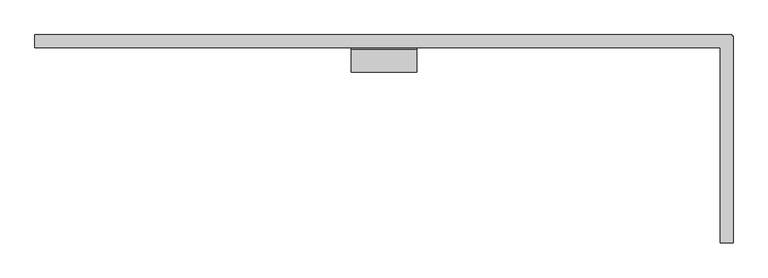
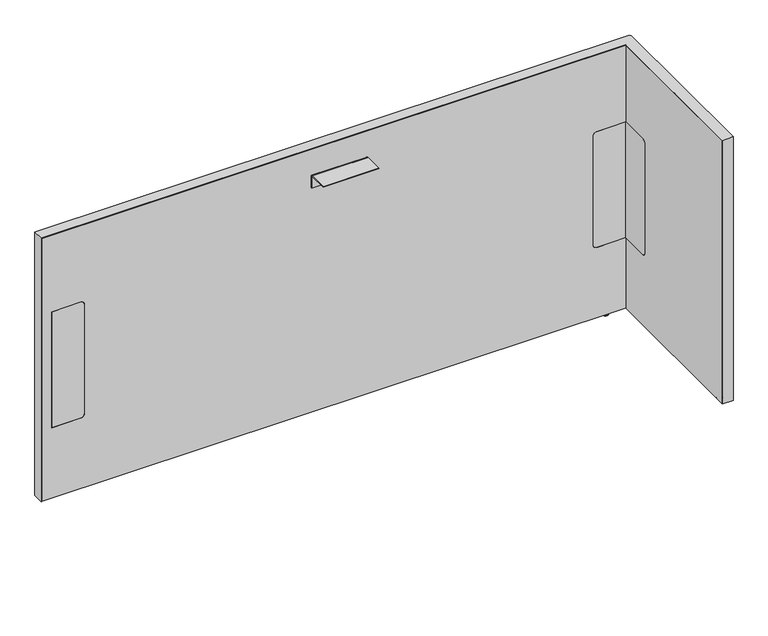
"""IFC4 building model written with IfcOpenShell, lengths in millimetres: furniture geometry, Steelcase - Answer Solution - Boundary Screen - L Return - Single Sided : 30H x 63W."""

import ifcopenshell
import ifcopenshell.guid

model = None  # the IFC model being written
_history = None  # IfcOwnerHistory: only IFC2X3 demands one
_inside = {}  # id of a spatial element -> (the spatial element, [elements in it])
_under = {}  # id of a project, library or spatial element -> (it, [spatial elements below it])
_declared = {}  # id of a project -> (the project, [libraries it declares])
_typed = {}  # id of a type object -> (the type object, [elements of that type])
_made_of = {}  # id of a material, layer set ... -> (it, [elements and type objects made of it])


def new_model(schema):
    """Start an empty IFC model of exactly this schema.

    Asked for "IFC4X3", IfcOpenShell would pick the latest addendum, in which some entities
    have other attributes; the version numbers below select the first issue.
    IFC2X3 requires an IfcOwnerHistory on every rooted entity: one is made here for all.
    """
    global model, _history
    if schema == "IFC4X3":
        model = ifcopenshell.file(schema_version=(4, 3, 0, 0))
    else:
        model = ifcopenshell.file(schema=schema)
    _inside.clear()
    _under.clear()
    _declared.clear()
    _typed.clear()
    _made_of.clear()
    _history = None
    if model.schema == "IFC2X3":
        org = make("IfcOrganization", Name="unknown")
        user = make(
            "IfcPersonAndOrganization",
            ThePerson=make("IfcPerson", FamilyName="unknown"),
            TheOrganization=org,
        )
        app = make(
            "IfcApplication",
            ApplicationDeveloper=org,
            Version="unknown",
            ApplicationFullName="unknown",
            ApplicationIdentifier="unknown",
        )
        _history = make(
            "IfcOwnerHistory",
            OwningUser=user,
            OwningApplication=app,
            ChangeAction="ADDED",
            CreationDate=0,
        )
    return model


def make(cls, **values):
    """One entity of the class cls with the attributes given. An attribute that is None is left unset."""
    return model.create_entity(
        cls, **{name: value for name, value in values.items() if value is not None}
    )


def rooted(cls, **values):
    """An entity with a GlobalId (a new one), such as an element, a storey or a relation."""
    return make(cls, GlobalId=ifcopenshell.guid.new(), OwnerHistory=_history, **values)


def si_unit(unit_type, name, prefix=None):
    """IfcSIUnit, for example si_unit("LENGTHUNIT", "METRE", prefix="MILLI")."""
    return make("IfcSIUnit", UnitType=unit_type, Prefix=prefix, Name=name)


def assignment(units):
    """IfcUnitAssignment: the units of a project."""
    return None if units is None else make("IfcUnitAssignment", Units=units)


def point(xyz):
    """IfcCartesianPoint."""
    return None if xyz is None else make("IfcCartesianPoint", Coordinates=xyz)


def direction(xyz):
    """IfcDirection."""
    return None if xyz is None else make("IfcDirection", DirectionRatios=xyz)


def frame(location, z_axis=None, x_axis=None):
    """IfcAxis2Placement3D, a coordinate frame: its origin and axes. An axis left out is left unset."""
    return make(
        "IfcAxis2Placement3D",
        Location=point(location),
        Axis=direction(z_axis),
        RefDirection=direction(x_axis),
    )


def frame_2d(location, x_axis=None):
    """IfcAxis2Placement2D, a coordinate frame in the plane: its origin and x axis."""
    return make(
        "IfcAxis2Placement2D", Location=point(location), RefDirection=direction(x_axis)
    )


def origin():
    """The frame at (0, 0, 0) with its axes left unset."""
    return frame((0.0, 0.0, 0.0))


def place(relative_to, where):
    """IfcLocalPlacement: puts the frame where relative to a parent placement (None: the world)."""
    return make(
        "IfcLocalPlacement", PlacementRelTo=relative_to, RelativePlacement=where
    )


def context(
    kind, dimensions, precision=None, world=None, true_north=None, identifier=None
):
    """IfcGeometricRepresentationContext, for example the 3D "Model" context."""
    return make(
        "IfcGeometricRepresentationContext",
        ContextIdentifier=identifier,
        ContextType=kind,
        CoordinateSpaceDimension=dimensions,
        Precision=precision,
        WorldCoordinateSystem=world,
        TrueNorth=true_north,
    )


def project(units=None, contexts=None):
    """IfcProject with its units and contexts."""
    return rooted(
        "IfcProject",
        Name="project",
        RepresentationContexts=contexts,
        UnitsInContext=assignment(units),
    )


def spatial(cls, under=None, at=None, **own):
    """A site, building, storey or space (cls), placed at a placement, below another one or the project."""
    s = rooted(cls, ObjectPlacement=at, **own)
    if under is not None:
        _under.setdefault(under.id(), (under, []))[1].append(s)
    return s


def polyline(points):
    """IfcPolyline through the points."""
    return make("IfcPolyline", Points=[point(p) for p in points])


def circle_curve(where, radius):
    """IfcCircle in the frame where."""
    return make("IfcCircle", Position=where, Radius=radius)


def ellipse_curve(where, semi_axis1, semi_axis2):
    """IfcEllipse in the frame where."""
    return make(
        "IfcEllipse", Position=where, SemiAxis1=semi_axis1, SemiAxis2=semi_axis2
    )


def trimmed(basis, trim1, trim2, sense, master):
    """IfcTrimmedCurve: the piece of a basis curve between two trims."""
    return make(
        "IfcTrimmedCurve",
        BasisCurve=basis,
        Trim1=trim1,
        Trim2=trim2,
        SenseAgreement=sense,
        MasterRepresentation=master,
    )


def segment(curve, same_sense, transition):
    """IfcCompositeCurveSegment."""
    return make(
        "IfcCompositeCurveSegment",
        Transition=transition,
        SameSense=same_sense,
        ParentCurve=curve,
    )


def composite_curve(segments, self_intersect=None):
    """IfcCompositeCurve: segments joined end to end."""
    return make("IfcCompositeCurve", Segments=segments, SelfIntersect=self_intersect)


def outline(outer, holes=None, kind="AREA"):
    """IfcArbitraryClosedProfileDef: a profile drawn as a closed curve; with holes, ...WithVoids."""
    if holes is None:
        return make("IfcArbitraryClosedProfileDef", ProfileType=kind, OuterCurve=outer)
    return make(
        "IfcArbitraryProfileDefWithVoids",
        ProfileType=kind,
        OuterCurve=outer,
        InnerCurves=holes,
    )


def extrude(swept, where, along, depth):
    """IfcExtrudedAreaSolid: the profile swept, set in the frame where, extruded along a direction by depth."""
    return make(
        "IfcExtrudedAreaSolid",
        SweptArea=swept,
        Position=where,
        ExtrudedDirection=direction(along),
        Depth=depth,
    )


def faces_of(points, faces, orient=None, outer=None):
    """IfcFace entities. A face is a list of loops; a loop is a list of indices into points, from 0.

    orient and outer hold one flag for each loop. By default every Orientation is true, the
    first loop of a face is its IfcFaceOuterBound and the others are IfcFaceBound.
    """
    made = []
    for i, loops in enumerate(faces):
        bounds = []
        for j, loop in enumerate(loops):
            is_outer = j == 0 if outer is None else outer[i][j]
            bounds.append(
                make(
                    "IfcFaceOuterBound" if is_outer else "IfcFaceBound",
                    Bound=make("IfcPolyLoop", Polygon=[points[k] for k in loop]),
                    Orientation=True if orient is None else orient[i][j],
                )
            )
        made.append(make("IfcFace", Bounds=bounds))
    return made


def faceted_brep(points, faces, orient=None, outer=None, voids=None):
    """IfcFacetedBrep: a solid bounded by flat faces; with voids (closed shells), ...WithVoids."""
    shared = [point(p) for p in points]
    hull = make("IfcClosedShell", CfsFaces=faces_of(shared, faces, orient, outer))
    if voids is None:
        return make("IfcFacetedBrep", Outer=hull)
    return make(
        "IfcFacetedBrepWithVoids",
        Outer=hull,
        Voids=[
            make(cls, CfsFaces=faces_of(shared, fs, o, b)) for cls, fs, o, b in voids
        ],
    )


def shape(context_of_items, identifier, shape_type, items):
    """IfcShapeRepresentation: the items that make up one representation, for example the "Body"."""
    return make(
        "IfcShapeRepresentation",
        ContextOfItems=context_of_items,
        RepresentationIdentifier=identifier,
        RepresentationType=shape_type,
        Items=items,
    )


def source(mapping_origin, context_of_items, identifier, shape_type, items):
    """IfcRepresentationMap: a shape defined once, which mapped items show again and again."""
    return make(
        "IfcRepresentationMap",
        MappingOrigin=mapping_origin,
        MappedRepresentation=shape(context_of_items, identifier, shape_type, items),
    )


def transform(
    local_origin,
    x_axis=None,
    y_axis=None,
    z_axis=None,
    scale=None,
    scale2=None,
    scale3=None,
    uniform=True,
):
    """IfcCartesianTransformationOperator3D, or its non-uniform kind. x_axis, y_axis, z_axis: its Axis1, 2, 3."""
    if uniform:
        return make(
            "IfcCartesianTransformationOperator3D",
            Axis1=direction(x_axis),
            Axis2=direction(y_axis),
            LocalOrigin=point(local_origin),
            Scale=scale,
            Axis3=direction(z_axis),
        )
    return make(
        "IfcCartesianTransformationOperator3DnonUniform",
        Axis1=direction(x_axis),
        Axis2=direction(y_axis),
        LocalOrigin=point(local_origin),
        Scale=scale,
        Axis3=direction(z_axis),
        Scale2=scale2,
        Scale3=scale3,
    )


def mapped(mapping_source, mapping_target):
    """IfcMappedItem: shows the shape of a source again, moved by a transform."""
    return make(
        "IfcMappedItem", MappingSource=mapping_source, MappingTarget=mapping_target
    )


def made_of(thing, what):
    """Note that an element or type object is made of a material, layer set ...; save() writes the relation."""
    if what is not None:
        _made_of.setdefault(what.id(), (what, []))[1].append(thing)
    return thing


def element(
    cls,
    number,
    at=None,
    inside=None,
    cuts=None,
    type_object=None,
    material=None,
    context=None,
    identifier="Body",
    shape_type=None,
    held_by="IfcProductDefinitionShape",
    body=None,
    shapes=None,
    **own,
):
    """One element of the class cls, such as IfcWall. Its Tag is "e" and its number.

    at: its placement. inside: the storey or other place that contains it. cuts: it is an
    opening in that element (IfcRelVoidsElement). A single representation is given by context,
    identifier, shape_type and body (its items); several are given by shapes. held_by: the class
    of the entity that holds the representations. save() writes the other relations.
    """
    e = rooted(cls, Tag="e%d" % number, ObjectPlacement=at, **own)
    if body is not None:
        shapes = [shape(context, identifier, shape_type, body)]
    if shapes is not None:
        e.Representation = make(held_by, Representations=shapes)
    if inside is not None:
        _inside.setdefault(inside.id(), (inside, []))[1].append(e)
    if cuts is not None:
        rooted(
            "IfcRelVoidsElement", RelatingBuildingElement=cuts, RelatedOpeningElement=e
        )
    if type_object is not None:
        _typed.setdefault(type_object.id(), (type_object, []))[1].append(e)
    return made_of(e, material)


def aggregate(whole, parts):
    """IfcRelAggregates: a whole, such as a stair, and the parts it consists of."""
    return rooted("IfcRelAggregates", RelatingObject=whole, RelatedObjects=parts)


def save(model, path):
    """Write the relations noted so far, then the file.

    IfcRelAggregates (storeys below a building ...), IfcRelContainedInSpatialStructure (elements
    in a storey), IfcRelDefinesByType, IfcRelAssociatesMaterial and IfcRelDeclares: one each for
    every whole, place, type object, material and project.
    """
    for whole, parts in _under.values():
        aggregate(whole, parts)
    for where, things in _inside.values():
        rooted(
            "IfcRelContainedInSpatialStructure",
            RelatedElements=things,
            RelatingStructure=where,
        )
    for kind, things in _typed.values():
        rooted("IfcRelDefinesByType", RelatedObjects=things, RelatingType=kind)
    for what, things in _made_of.values():
        rooted("IfcRelAssociatesMaterial", RelatedObjects=things, RelatingMaterial=what)
    for by, libraries in _declared.values():
        rooted("IfcRelDeclares", RelatingContext=by, RelatedDefinitions=libraries)
    model.write(path)


def plane_surface(at):
    """IfcPlane: the flat surface through the origin of the frame at, square to its z axis."""
    return make("IfcPlane", Position=at)


def cylinder_surface(at, radius):
    """IfcCylindricalSurface: all points at the distance radius from the z axis of the frame at."""
    return make("IfcCylindricalSurface", Position=at, Radius=radius)


def revolved_surface(curve, axis_point, axis_direction):
    """IfcSurfaceOfRevolution: the curve turned about the line through axis_point along axis_direction."""
    return make(
        "IfcSurfaceOfRevolution",
        SweptCurve=make("IfcArbitraryOpenProfileDef", ProfileType="CURVE", Curve=curve),
        AxisPosition=make("IfcAxis1Placement", Location=point(axis_point), Axis=direction(axis_direction)),
    )


def advanced_brep(points, edges, surfaces, faces):
    """IfcAdvancedBrep: a solid bounded by faces that lie on surfaces and meet in shared edges.

    An edge is (start, end): straight between two places in points (the first is 0);
    or (start, end, curve); or (start, end, curve, False) where it runs against its curve.
    A face is (place in surfaces, loops), or (place, loops, False) where it looks against
    its surface's normal. A loop lists edges by number (the first is 1), with a minus sign
    where the edge is run from its end to its start. The first loop is the outer one.
    """
    corners = [point(p) for p in points]
    vertices = [make("IfcVertexPoint", VertexGeometry=c) for c in corners]
    made = []
    for start, end, *more in edges:
        made.append(
            make(
                "IfcEdgeCurve",
                EdgeStart=vertices[start],
                EdgeEnd=vertices[end],
                EdgeGeometry=more[0] if more else make("IfcPolyline", Points=[corners[start], corners[end]]),
                SameSense=more[1] if len(more) > 1 else True,
            )
        )
    hull = []
    for where, loops, *sense in faces:
        bounds = []
        for j, loop in enumerate(loops):
            ring = [make("IfcOrientedEdge", EdgeElement=made[abs(k) - 1], Orientation=k > 0) for k in loop]
            bounds.append(
                make(
                    "IfcFaceOuterBound" if j == 0 else "IfcFaceBound",
                    Bound=make("IfcEdgeLoop", EdgeList=ring),
                    Orientation=True,
                )
            )
        hull.append(make("IfcAdvancedFace", Bounds=bounds, FaceSurface=surfaces[where], SameSense=sense[0] if sense else True))
    return make("IfcAdvancedBrep", Outer=make("IfcClosedShell", CfsFaces=hull))


def furniture_2e11715c(model_context):
    return source(origin(), model_context, "Body", "SolidModel", [
        extrude(outline(composite_curve([segment(polyline([(-109.3501471, 549.6162029), (-29.0550397, 549.6162029), (-29.0550397, 213.7762137), (-109.3501471, 213.7762137)]), True, "CONTINUOUS"), segment(trimmed(circle_curve(frame_2d((-109.3501471, 223.9362137)), 10.16), [point((-109.3501471, 213.7762137))], [point((-119.5101471, 223.9362137))], False, "CARTESIAN"), True, "CONTINUOUS"), segment(polyline([(-119.5101471, 223.9362137), (-119.5101471, 539.4562029)]), True, "CONTINUOUS"), segment(trimmed(circle_curve(frame_2d((-109.3501471, 539.4562029)), 10.16), [point((-119.5101471, 539.4562029))], [point((-109.3501471, 549.6162029))], False, "CARTESIAN"), True, "CONTINUOUS")], self_intersect=False)), frame((1830.0191891, 0.0, 0.0), z_axis=(1.0, 0.0, 0.0), x_axis=(0.0, 1.0, 0.0)), (0.0, 0.0, 1.0), 0.6401544),
        advanced_brep(
        [(1844.8672074, -448.0136072, 0.0), (1851.8216144, -448.0136072, 0.0), (1837.9128003, -448.0136072, 0.0), (1853.2762685, -448.0136072, 1.2700001), (1836.4581463, -448.0136072, 1.2700001), (1853.2762685, -448.0136072, 2.9673238), (1836.4581463, -448.0136072, 2.9673238), (1854.2427877, -448.0136072, 2.9673238), (1835.491627, -448.0136072, 2.9673238), (1854.2427877, -448.0136072, 9.9059849), (1835.491627, -448.0136072, 9.9059849), (1844.8672074, -448.0136072, 9.9059849)],
        [
            (0, 1),
            (1, 2, circle_curve(frame((1844.8672074, -448.0136072, 0.0), z_axis=(0.0, 0.0, -1.0), x_axis=(1.0, 0.0, 0.0)), 6.9544071)),
            (2, 0),
            (2, 1, circle_curve(frame((1844.8672074, -448.0136072, 0.0), z_axis=(0.0, 0.0, -1.0), x_axis=(1.0, 0.0, 0.0)), 6.9544071)),
            (1, 3, circle_curve(frame((1851.9945484, -448.0136072, 1.2700001), z_axis=(0.0, -1.0, 0.0), x_axis=(0.0, 0.0, 1.0)), 1.2817201)),
            (3, 4, circle_curve(frame((1844.8672074, -448.0136072, 1.2700001), z_axis=(0.0, 0.0, -1.0), x_axis=(1.0, 0.0, 0.0)), 8.4090611)),
            (4, 2, circle_curve(frame((1837.7398663, -448.0136072, 1.2700001), z_axis=(0.0, -1.0, 0.0), x_axis=(0.0, 0.0, 1.0)), 1.2817201)),
            (4, 3, circle_curve(frame((1844.8672074, -448.0136072, 1.2700001), z_axis=(0.0, 0.0, -1.0), x_axis=(1.0, 0.0, 0.0)), 8.4090611)),
            (3, 5),
            (5, 6, circle_curve(frame((1844.8672074, -448.0136072, 2.9673238), z_axis=(0.0, 0.0, -1.0), x_axis=(1.0, 0.0, 0.0)), 8.4090611)),
            (6, 4),
            (6, 5, circle_curve(frame((1844.8672074, -448.0136072, 2.9673238), z_axis=(0.0, 0.0, -1.0), x_axis=(1.0, 0.0, 0.0)), 8.4090611)),
            (5, 7),
            (7, 8, circle_curve(frame((1844.8672074, -448.0136072, 2.9673238), z_axis=(0.0, 0.0, -1.0), x_axis=(1.0, 0.0, 0.0)), 9.3755804)),
            (8, 6),
            (8, 7, circle_curve(frame((1844.8672074, -448.0136072, 2.9673238), z_axis=(0.0, 0.0, -1.0), x_axis=(1.0, 0.0, 0.0)), 9.3755804)),
            (7, 9),
            (9, 10, circle_curve(frame((1844.8672074, -448.0136072, 9.9059849), z_axis=(0.0, 0.0, -1.0), x_axis=(1.0, 0.0, 0.0)), 9.3755804)),
            (10, 8),
            (10, 9, circle_curve(frame((1844.8672074, -448.0136072, 9.9059849), z_axis=(0.0, 0.0, -1.0), x_axis=(1.0, 0.0, 0.0)), 9.3755804)),
            (9, 11),
            (11, 10),
        ],
        [
            plane_surface(frame((1844.8672074, -448.0136072, 0.0), z_axis=(0.0, 0.0, -1.0), x_axis=(1.0, 0.0, 0.0))),
            revolved_surface(trimmed(ellipse_curve(frame((1851.9945484, -448.0136072, 1.2700001), z_axis=(0.0, 1.0, 0.0), x_axis=(0.0, 0.0, 1.0)), 1.2817201, 1.2817201), [point((1853.2762685, -448.0136072, 1.2700001))], [point((1851.8216144, -448.0136072, 0.0))], True, "CARTESIAN"), (1844.8672074, -448.0136072, 9.9059849), (0.0, 0.0, -1.0)),
            cylinder_surface(frame((1844.8672074, -448.0136072, 9.9059849), z_axis=(0.0, 0.0, -1.0), x_axis=(1.0, 0.0, 0.0)), 8.4090611),
            plane_surface(frame((1844.8672074, -448.0136072, 2.9673238), z_axis=(0.0, 0.0, -1.0), x_axis=(1.0, 0.0, 0.0))),
            cylinder_surface(frame((1844.8672074, -448.0136072, 9.9059849), z_axis=(0.0, 0.0, -1.0), x_axis=(1.0, 0.0, 0.0)), 9.3755804),
            plane_surface(frame((1844.8672074, -448.0136072, 9.9059849), z_axis=(0.0, 0.0, 1.0), x_axis=(1.0, 0.0, 0.0))),
        ],
        [
            (0, [[1, 2, 3]]),
            (0, [[-3, 4, -1]]),
            (1, [[-2, 5, 6, 7]]),
            (1, [[-4, -7, 8, -5]]),
            (2, [[-6, 9, 10, 11]]),
            (2, [[-8, -11, 12, -9]]),
            (3, [[-10, 13, 14, 15]]),
            (3, [[-12, -15, 16, -13]]),
            (4, [[-14, 17, 18, 19]]),
            (4, [[-16, -19, 20, -17]]),
            (5, [[-18, 21, 22]]),
            (5, [[-20, -22, -21]]),
        ],
    ),
        faceted_brep([(1856.4531179, 0.0, 772.922), (1856.4531179, 0.0, 9.9059849), (1855.4621491, 0.0, 9.9059849), (1855.4621491, 0.0, 771.942118), (230.8097779, 0.0, 771.942118), (230.8097779, 0.0, 9.9059849), (229.8191891, 0.0, 9.9059849), (229.8191891, 0.0, 772.922), (229.8191891, -29.6898332, 772.922), (229.8191891, -29.6898332, 9.9059849), (230.8097779, -29.6898332, 9.9059849), (230.8097779, -29.6898332, 771.942118), (1830.0191891, -29.6898332, 771.942118), (1830.0191891, -29.6898332, 772.922), (1855.4621491, -29.6898332, 771.942118), (1855.4621491, -29.6898332, 9.9059849), (1856.4531179, -29.6898332, 9.9059849), (1856.4531179, -29.6898332, 771.942118), (1856.4531179, -3.2625916, 772.922), (1856.4531179, -3.2625916, 9.9059849), (1856.4531179, -4.252647, 9.9059849), (1856.4531179, -4.252647, 771.942118), (1859.7152256, -3.2625916, 9.9059849), (1859.7152256, -4.252647, 9.9059849), (1855.4621491, -4.252647, 9.9059849), (1830.0191891, -4.252647, 9.9059849), (1830.0191891, -3.2625916, 9.9059849), (1855.4621491, -3.2625916, 9.9059849), (1830.0191891, -486.8898332, 772.922), (1859.7152256, -486.8898332, 772.922), (1859.7152256, -3.2625916, 772.922), (1855.4621491, -3.2625916, 771.942118), (1855.4621491, -4.252647, 771.942118), (1830.0191891, -3.2625916, 771.942118), (1830.0191891, -4.252647, 771.942118), (1859.7152256, -4.252647, 771.942118), (1859.7152256, -485.899196, 771.942118), (1830.0191891, -485.899196, 771.942118), (1830.0191891, -485.899196, 9.9059849), (1830.0191891, -486.8898332, 9.9059849), (1859.7152256, -486.8898332, 9.9059849), (1859.7152256, -485.899196, 9.9059849)], [[[0, 1, 2, 3, 4, 5, 6, 7]], [[8, 9, 10, 11, 12, 13]], [[14, 15, 16, 17]], [[1, 0, 18, 19]], [[17, 16, 20, 21]], [[2, 1, 19, 22, 23, 20, 16, 15, 24, 25, 26, 27]], [[7, 6, 9, 8]], [[0, 7, 8, 13, 28, 29, 30, 18]], [[3, 2, 27, 31]], [[15, 14, 32, 24]], [[4, 3, 31, 33, 34, 32, 14, 17, 21, 35, 36, 37, 12, 11]], [[5, 4, 11, 10]], [[6, 5, 10, 9]], [[26, 25, 34, 33]], [[37, 38, 39, 28, 13, 12]], [[29, 40, 41, 36, 35, 23, 22, 30]], [[27, 26, 33, 31]], [[30, 22, 19, 18]], [[34, 25, 24, 32]], [[23, 35, 21, 20]], [[38, 37, 36, 41]], [[39, 38, 41, 40]], [[28, 39, 40, 29]]]),
        extrude(outline(composite_curve([segment(polyline([(-86.8398151, 696.4680019), (-86.8398151, 698.5), (-34.9450855, 698.5)]), True, "CONTINUOUS"), segment(trimmed(circle_curve(frame_2d((-34.9450855, 693.2447477)), 5.2552523), [point((-34.9450855, 698.5))], [point((-29.6898332, 693.2447477))], False, "CARTESIAN"), True, "CONTINUOUS"), segment(polyline([(-29.6898332, 693.2447477), (-29.6898332, 660.4), (-31.7218162, 660.4), (-31.7218162, 693.0058743)]), True, "CONTINUOUS"), segment(trimmed(circle_curve(frame_2d((-35.1839438, 693.0058743)), 3.4621276), [point((-31.7218162, 693.0058743))], [point((-35.1839438, 696.4680019))], True, "CARTESIAN"), True, "CONTINUOUS"), segment(polyline([(-35.1839438, 696.4680019), (-86.8398151, 696.4680019)]), True, "CONTINUOUS")], self_intersect=False)), frame((968.5685899, 0.0, 0.0), z_axis=(1.0, 0.0, 0.0), x_axis=(0.0, 1.0, 0.0)), (0.0, 0.0, 1.0), 152.4000969),
        advanced_brep(
        [(1782.5246853, -23.7588726, 9.9059849), (1782.5246853, -5.9309607, 9.9059849), (1782.5246853, -14.8449166, 9.9059849), (1782.5246853, -23.7588726, 2.9673238), (1782.5246853, -5.9309607, 2.9673238), (1782.5246853, -22.7915354, 2.9673238), (1782.5246853, -6.8982978, 2.9673238), (1782.5246853, -22.7915354, 1.6569081), (1782.5246853, -6.8982978, 1.6569081), (1782.5246853, -21.1346274, 0.0), (1782.5246853, -8.5552059, 0.0), (1782.5246853, -14.8449166, 0.0)],
        [
            (0, 1, circle_curve(frame((1782.5246853, -14.8449166, 9.9059849), z_axis=(0.0, 0.0, 1.0), x_axis=(0.0, 1.0, 0.0)), 8.913956)),
            (1, 2),
            (2, 0),
            (1, 0, circle_curve(frame((1782.5246853, -14.8449166, 9.9059849), z_axis=(0.0, 0.0, 1.0), x_axis=(0.0, 1.0, 0.0)), 8.913956)),
            (3, 4, circle_curve(frame((1782.5246853, -14.8449166, 2.9673238), z_axis=(0.0, 0.0, 1.0), x_axis=(0.0, 1.0, 0.0)), 8.913956)),
            (4, 1),
            (0, 3),
            (4, 3, circle_curve(frame((1782.5246853, -14.8449166, 2.9673238), z_axis=(0.0, 0.0, 1.0), x_axis=(0.0, 1.0, 0.0)), 8.913956)),
            (5, 6, circle_curve(frame((1782.5246853, -14.8449166, 2.9673238), z_axis=(0.0, 0.0, 1.0), x_axis=(0.0, 1.0, 0.0)), 7.9466188)),
            (6, 4),
            (3, 5),
            (6, 5, circle_curve(frame((1782.5246853, -14.8449166, 2.9673238), z_axis=(0.0, 0.0, 1.0), x_axis=(0.0, 1.0, 0.0)), 7.9466188)),
            (7, 8, circle_curve(frame((1782.5246853, -14.8449166, 1.6569081), z_axis=(0.0, 0.0, 1.0), x_axis=(0.0, 1.0, 0.0)), 7.9466188)),
            (8, 6),
            (5, 7),
            (8, 7, circle_curve(frame((1782.5246853, -14.8449166, 1.6569081), z_axis=(0.0, 0.0, 1.0), x_axis=(0.0, 1.0, 0.0)), 7.9466188)),
            (9, 10, circle_curve(frame((1782.5246853, -14.8449166, 0.0), z_axis=(0.0, 0.0, 1.0), x_axis=(0.0, 1.0, 0.0)), 6.2897107)),
            (10, 8, circle_curve(frame((1782.5246853, -8.5552059, 1.6569081), z_axis=(1.0, 0.0, 0.0), x_axis=(0.0, 1.0, 0.0)), 1.6569081)),
            (7, 9, circle_curve(frame((1782.5246853, -21.1346274, 1.6569081), z_axis=(1.0, 0.0, 0.0), x_axis=(0.0, -1.0, 0.0)), 1.6569081)),
            (10, 9, circle_curve(frame((1782.5246853, -14.8449166, 0.0), z_axis=(0.0, 0.0, 1.0), x_axis=(0.0, 1.0, 0.0)), 6.2897107)),
            (11, 10),
            (9, 11),
        ],
        [
            plane_surface(frame((1782.5246853, -14.8449166, 9.9059849), z_axis=(0.0, 0.0, 1.0), x_axis=(0.0, 1.0, 0.0))),
            cylinder_surface(frame((1782.5246853, -14.8449166, 9.9059849), z_axis=(0.0, 0.0, -1.0), x_axis=(0.0, 1.0, 0.0)), 8.913956),
            plane_surface(frame((1782.5246853, -14.8449166, 2.9673238), z_axis=(0.0, 0.0, -1.0), x_axis=(0.0, 1.0, 0.0))),
            cylinder_surface(frame((1782.5246853, -14.8449166, 9.9059849), z_axis=(0.0, 0.0, -1.0), x_axis=(0.0, 1.0, 0.0)), 7.9466188),
            revolved_surface(trimmed(ellipse_curve(frame((1782.5246853, -8.5552059, 1.6569081), z_axis=(-1.0, 0.0, 0.0), x_axis=(0.0, 1.0, 0.0)), 1.6569081, 1.6569081), [point((1782.5246853, -6.8982978, 1.6569081))], [point((1782.5246853, -8.5552059, 0.0))], True, "CARTESIAN"), (1782.5246853, -14.8449166, 9.9059849), (0.0, 0.0, -1.0)),
            plane_surface(frame((1782.5246853, -14.8449166, 0.0), z_axis=(0.0, 0.0, -1.0), x_axis=(0.0, 1.0, 0.0))),
        ],
        [
            (0, [[1, 2, 3]]),
            (0, [[4, -3, -2]]),
            (1, [[5, 6, -1, 7]]),
            (1, [[8, -7, -4, -6]]),
            (2, [[9, 10, -5, 11]]),
            (2, [[12, -11, -8, -10]]),
            (3, [[13, 14, -9, 15]]),
            (3, [[16, -15, -12, -14]]),
            (4, [[17, 18, -13, 19]]),
            (4, [[20, -19, -16, -18]]),
            (5, [[21, -17, 22]]),
            (5, [[-22, -20, -21]]),
        ],
    ),
        advanced_brep(
        [(230.8097779, 0.0, 771.942118), (1855.4621491, 0.0, 771.942118), (1855.4621491, 0.0, 9.9059849), (230.8097779, 0.0, 9.9059849), (347.9483813, -29.0550397, 539.4562029), (337.7883813, -29.0550397, 549.6162029), (258.1344836, -29.0550397, 549.6162029), (258.1344836, -29.0550397, 213.7762137), (337.7883813, -29.0550397, 213.7762137), (347.9483813, -29.0550397, 223.9362137), (1830.6593435, -29.0550397, 213.7762137), (1830.6593435, -29.0550397, 549.6162029), (1750.1109268, -29.0550397, 549.6162029), (1739.9509268, -29.0550397, 539.4562029), (1739.9509268, -29.0550397, 223.9362137), (1750.1109268, -29.0550397, 213.7762137), (230.8097779, -29.6898332, 771.942118), (230.8097779, -29.6898332, 9.9059849), (1830.0191891, -29.6898332, 9.9059849), (1830.0191891, -29.6898332, 213.7762137), (1750.1109268, -29.6898332, 213.7762137), (1739.9509268, -29.6898332, 223.9362137), (1739.9509268, -29.6898332, 539.4562029), (1750.1109268, -29.6898332, 549.6162029), (1830.0191891, -29.6898332, 549.6162029), (1830.0191891, -29.6898332, 771.942118), (337.7883813, -29.6898332, 549.6162029), (347.9483813, -29.6898332, 539.4562029), (347.9483813, -29.6898332, 223.9362137), (337.7883813, -29.6898332, 213.7762137), (258.1344836, -29.6898332, 213.7762137), (258.1344836, -29.6898332, 549.6162029), (1855.4621491, -4.252647, 9.9059849), (1859.7152256, -4.252647, 9.9059849), (1859.7152256, -485.899196, 9.9059849), (1830.0191891, -485.899196, 9.9059849), (1855.4621491, -4.252647, 771.942118), (1830.0191891, -485.899196, 771.942118), (1859.7152256, -485.899196, 771.942118), (1859.7152256, -4.252647, 771.942118), (1830.6593435, -109.3501471, 549.6162029), (1830.0191891, -109.3501471, 549.6162029), (1830.6593435, -109.3501471, 213.7762137), (1830.6593435, -119.5101471, 223.9362137), (1830.6593435, -119.5101471, 539.4562029), (1830.0191891, -109.3501471, 213.7762137), (1830.0191891, -119.5101471, 539.4562029), (1830.0191891, -119.5101471, 223.9362137)],
        [
            (0, 1),
            (1, 2),
            (2, 3),
            (3, 0),
            (4, 5, circle_curve(frame((337.7883813, -29.0550397, 539.4562029), z_axis=(0.0, -1.0, 0.0), x_axis=(0.0, 0.0, 1.0)), 10.16)),
            (5, 6),
            (6, 7),
            (7, 8),
            (8, 9, circle_curve(frame((337.7883813, -29.0550397, 223.9362137), z_axis=(0.0, -1.0, 0.0), x_axis=(0.0, 0.0, 1.0)), 10.16)),
            (9, 4),
            (10, 11),
            (11, 12),
            (12, 13, circle_curve(frame((1750.1109268, -29.0550397, 539.4562029), z_axis=(0.0, -1.0, 0.0), x_axis=(0.0, 0.0, 1.0)), 10.16)),
            (13, 14),
            (14, 15, circle_curve(frame((1750.1109268, -29.0550397, 223.9362137), z_axis=(0.0, -1.0, 0.0), x_axis=(0.0, 0.0, 1.0)), 10.16)),
            (15, 10),
            (16, 17),
            (17, 18),
            (18, 19),
            (19, 20),
            (20, 21, circle_curve(frame((1750.1109268, -29.6898332, 223.9362137), z_axis=(0.0, 1.0, 0.0), x_axis=(0.0, 0.0, 1.0)), 10.16)),
            (21, 22),
            (22, 23, circle_curve(frame((1750.1109268, -29.6898332, 539.4562029), z_axis=(0.0, 1.0, 0.0), x_axis=(0.0, 0.0, 1.0)), 10.16)),
            (23, 24),
            (24, 25),
            (25, 16),
            (26, 27, circle_curve(frame((337.7883813, -29.6898332, 539.4562029), z_axis=(0.0, 1.0, 0.0), x_axis=(0.0, 0.0, 1.0)), 10.16)),
            (27, 28),
            (28, 29, circle_curve(frame((337.7883813, -29.6898332, 223.9362137), z_axis=(0.0, 1.0, 0.0), x_axis=(0.0, 0.0, 1.0)), 10.16)),
            (29, 30),
            (30, 31),
            (31, 26),
            (16, 0),
            (3, 17),
            (2, 32),
            (32, 33),
            (33, 34),
            (34, 35),
            (35, 18),
            (1, 36),
            (36, 32),
            (25, 37),
            (37, 38),
            (38, 39),
            (39, 36),
            (26, 5),
            (4, 27),
            (9, 28),
            (8, 29),
            (7, 30),
            (6, 31),
            (11, 40),
            (40, 41),
            (41, 24),
            (23, 12),
            (42, 43, circle_curve(frame((1830.6593435, -109.3501471, 223.9362137), z_axis=(-1.0, 0.0, 0.0), x_axis=(0.0, 1.0, 0.0)), 10.16)),
            (43, 44),
            (44, 40, circle_curve(frame((1830.6593435, -109.3501471, 539.4562029), z_axis=(-1.0, 0.0, 0.0), x_axis=(0.0, 1.0, 0.0)), 10.16)),
            (10, 42),
            (15, 20),
            (19, 45),
            (45, 42),
            (14, 21),
            (13, 22),
            (35, 37),
            (41, 46, circle_curve(frame((1830.0191891, -109.3501471, 539.4562029), z_axis=(1.0, 0.0, 0.0), x_axis=(0.0, 1.0, 0.0)), 10.16)),
            (46, 47),
            (47, 45, circle_curve(frame((1830.0191891, -109.3501471, 223.9362137), z_axis=(1.0, 0.0, 0.0), x_axis=(0.0, 1.0, 0.0)), 10.16)),
            (38, 34),
            (33, 39),
            (44, 46),
            (43, 47),
        ],
        [
            plane_surface(frame((347.9483813, 0.0, 549.6162029), z_axis=(0.0, 1.0, 0.0), x_axis=(0.0, 0.0, -1.0))),
            plane_surface(frame((347.9483813, -29.0550397, 549.6162029), z_axis=(0.0, -1.0, 0.0), x_axis=(0.0, 0.0, 1.0))),
            plane_surface(frame((1855.4621491, -29.6898332, 771.942118), z_axis=(0.0, -1.0, 0.0), x_axis=(-1.0, 0.0, 0.0))),
            plane_surface(frame((230.8097779, 0.0, 9.9059849), z_axis=(-1.0, 0.0, 0.0), x_axis=(0.0, -1.0, 0.0))),
            plane_surface(frame((1855.4621491, 0.0, 9.9059849), z_axis=(0.0, 0.0, -1.0), x_axis=(0.0, -1.0, 0.0))),
            plane_surface(frame((1855.4621491, 0.0, 771.942118), z_axis=(1.0, 0.0, 0.0), x_axis=(0.0, -1.0, 0.0))),
            plane_surface(frame((230.8097779, 0.0, 771.942118), z_axis=(0.0, 0.0, 1.0), x_axis=(0.0, -1.0, 0.0))),
            revolved_surface(polyline([(337.7883813, -29.6898332, 549.6162029), (337.7883813, -29.0550397, 549.6162029)]), (337.7883813, -29.6898332, 539.4562029), (0.0, -1.0, 0.0)),
            plane_surface(frame((347.9483813, 0.0, 223.9362137), z_axis=(-1.0, 0.0, 0.0), x_axis=(0.0, -1.0, 0.0))),
            revolved_surface(polyline([(337.7883813, -29.6898332, 234.0962137), (337.7883813, -29.0550397, 234.0962137)]), (337.7883813, -29.6898332, 223.9362137), (0.0, -1.0, 0.0)),
            plane_surface(frame((258.1344836, 0.0, 213.7762137), z_axis=(0.0, 0.0, 1.0), x_axis=(0.0, -1.0, 0.0))),
            plane_surface(frame((258.1344836, 0.0, 549.6162029), z_axis=(1.0, 0.0, 0.0), x_axis=(0.0, -1.0, 0.0))),
            plane_surface(frame((337.7883813, 0.0, 549.6162029), z_axis=(0.0, 0.0, -1.0), x_axis=(0.0, -1.0, 0.0))),
            plane_surface(frame((1830.6593435, 0.0, 549.6162029), z_axis=(0.0, 0.0, -1.0), x_axis=(0.0, -1.0, 0.0))),
            plane_surface(frame((1830.6593435, 0.0, 213.7762137), z_axis=(-1.0, 0.0, 0.0), x_axis=(0.0, -1.0, 0.0))),
            plane_surface(frame((1750.1109268, 0.0, 213.7762137), z_axis=(0.0, 0.0, 1.0), x_axis=(0.0, -1.0, 0.0))),
            revolved_surface(polyline([(1750.1109268, -29.6898332, 234.0962137), (1750.1109268, -29.0550397, 234.0962137)]), (1750.1109268, -29.6898332, 223.9362137), (0.0, -1.0, 0.0)),
            plane_surface(frame((1739.9509268, 0.0, 539.4562029), z_axis=(1.0, 0.0, 0.0), x_axis=(0.0, -1.0, 0.0))),
            revolved_surface(polyline([(1750.1109268, -29.6898332, 549.6162029), (1750.1109268, -29.0550397, 549.6162029)]), (1750.1109268, -29.6898332, 539.4562029), (0.0, -1.0, 0.0)),
            plane_surface(frame((1830.0191891, -485.899196, 771.942118), z_axis=(-1.0, 0.0, 0.0), x_axis=(0.0, 0.0, 1.0))),
            plane_surface(frame((1859.7152256, -485.899196, 771.942118), z_axis=(1.0, 0.0, 0.0), x_axis=(0.0, 0.0, -1.0))),
            plane_surface(frame((1859.7152256, -4.252647, 9.9059849), z_axis=(0.0, 1.0, 0.0), x_axis=(-1.0, 0.0, 0.0))),
            plane_surface(frame((1859.7152256, -485.899196, 771.942118), z_axis=(0.0, -1.0, 0.0), x_axis=(-1.0, 0.0, 0.0))),
            revolved_surface(polyline([(1830.0191890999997, -99.1901471, 539.4562029), (1830.6593434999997, -99.1901471, 539.4562029)]), (-340.6902705, -109.3501471, 539.4562029), (-1.0, 0.0, 0.0)),
            plane_surface(frame((1859.7152256, -119.5101471, 223.9362137), z_axis=(0.0, 1.0, 0.0), x_axis=(-1.0, 0.0, 0.0))),
            revolved_surface(polyline([(1830.0191890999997, -99.1901471, 223.9362137), (1830.6593434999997, -99.1901471, 223.9362137)]), (-340.6902705, -109.3501471, 223.9362137), (-1.0, 0.0, 0.0)),
        ],
        [
            (0, [[1, 2, 3, 4]]),
            (1, [[5, 6, 7, 8, 9, 10]]),
            (1, [[11, 12, 13, 14, 15, 16]]),
            (2, [[17, 18, 19, 20, 21, 22, 23, 24, 25, 26], [27, 28, 29, 30, 31, 32]]),
            (3, [[-17, 33, -4, 34]]),
            (4, [[-3, 35, 36, 37, 38, 39, -18, -34]]),
            (5, [[-2, 40, 41, -35]]),
            (6, [[-1, -33, -26, 42, 43, 44, 45, -40]]),
            (7, [[-27, 46, -5, 47]]),
            (8, [[-28, -47, -10, 48]]),
            (9, [[-29, -48, -9, 49]]),
            (10, [[-30, -49, -8, 50]]),
            (11, [[-31, -50, -7, 51]]),
            (12, [[-32, -51, -6, -46]]),
            (13, [[52, 53, 54, -24, 55, -12]]),
            (14, [[56, 57, 58, -52, -11, 59]]),
            (15, [[-59, -16, 60, -20, 61, 62]]),
            (16, [[-21, -60, -15, 63]]),
            (17, [[-22, -63, -14, 64]]),
            (18, [[-23, -64, -13, -55]]),
            (19, [[65, -42, -25, -54, 66, 67, 68, -61, -19, -39]]),
            (20, [[69, -37, 70, -44]]),
            (21, [[-70, -36, -41, -45]]),
            (22, [[-65, -38, -69, -43]]),
            (23, [[-66, -53, -58, 71]]),
            (24, [[-67, -71, -57, 72]]),
            (25, [[-68, -72, -56, -62]]),
        ],
    ),
        extrude(outline(composite_curve([segment(polyline([(549.6162029, 337.7883813), (549.6162029, 258.1344836), (213.7762137, 258.1344836), (213.7762137, 337.7883813)]), True, "CONTINUOUS"), segment(trimmed(circle_curve(frame_2d((223.9362137, 337.7883813)), 10.16), [point((213.7762137, 337.7883813))], [point((223.9362137, 347.9483813))], False, "CARTESIAN"), True, "CONTINUOUS"), segment(polyline([(223.9362137, 347.9483813), (539.4562029, 347.9483813)]), True, "CONTINUOUS"), segment(trimmed(circle_curve(frame_2d((539.4562029, 337.7883813)), 10.16), [point((539.4562029, 347.9483813))], [point((549.6162029, 337.7883813))], False, "CARTESIAN"), True, "CONTINUOUS")], self_intersect=False)), frame((0.0, -29.6898332, 0.0), z_axis=(0.0, 1.0, 0.0), x_axis=(0.0, 0.0, 1.0)), (0.0, 0.0, 1.0), 0.6347935),
        extrude(outline(composite_curve([segment(trimmed(circle_curve(frame_2d((539.4562029, 1750.1109268)), 10.16), [point((549.6162029, 1750.1109268))], [point((539.4562029, 1739.9509268))], False, "CARTESIAN"), True, "CONTINUOUS"), segment(polyline([(539.4562029, 1739.9509268), (223.9362137, 1739.9509268)]), True, "CONTINUOUS"), segment(trimmed(circle_curve(frame_2d((223.9362137, 1750.1109268)), 10.16), [point((223.9362137, 1739.9509268))], [point((213.7762137, 1750.1109268))], False, "CARTESIAN"), True, "CONTINUOUS"), segment(polyline([(213.7762137, 1750.1109268), (213.7762137, 1830.0191891), (549.6162029, 1830.0191891), (549.6162029, 1750.1109268)]), True, "CONTINUOUS")], self_intersect=False)), frame((0.0, -29.6898332, 0.0), z_axis=(0.0, 1.0, 0.0), x_axis=(0.0, 0.0, 1.0)), (0.0, 0.0, 1.0), 0.6347935),
    ])


if __name__ == "__main__":
    model = new_model("IFC4")
    model_context = context("Model", 3, world=origin())
    ifc_project = project(units=[si_unit("LENGTHUNIT", "METRE", prefix="MILLI")], contexts=[model_context])
    site = spatial("IfcSite", under=ifc_project)
    building = spatial("IfcBuilding", under=site)
    placement = place(None, origin())
    furniture_shape = furniture_2e11715c(model_context)
    element("IfcFurniture", 1, ObjectType="Steelcase - Answer Solution - Boundary Screen - L Return - Single Sided : 30H x 63W", at=placement, inside=building, context=model_context, shape_type="MappedRepresentation", body=[
        mapped(furniture_shape, transform((0.0, 0.0, 0.0), x_axis=(1.0, 0.0, 0.0), y_axis=(0.0, 1.0, 0.0), z_axis=(0.0, 0.0, 1.0))),
    ])
    save(model, "model.ifc")
